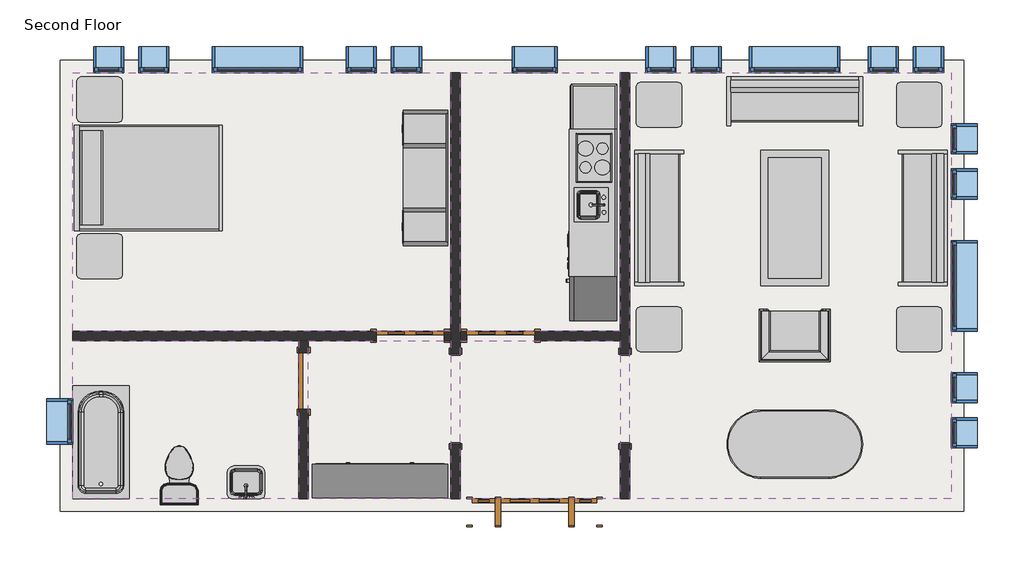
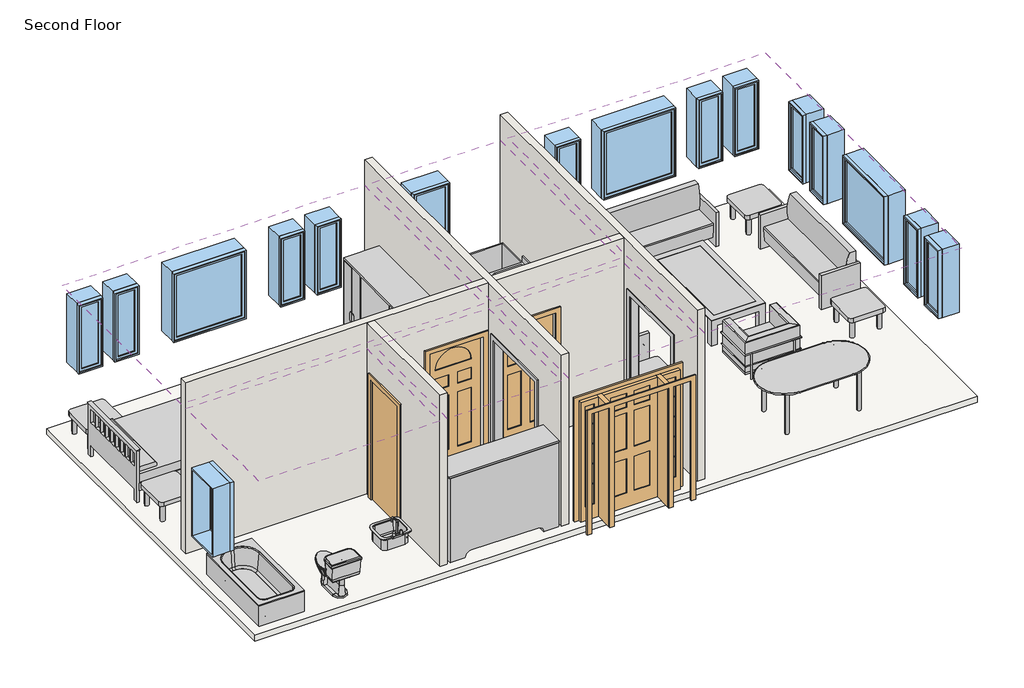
# One storey: 17 windows, 15 furniture elements, 6 coverings, 5 walls, 4 doors, 3 flow terminals, 3 proxies, 1 slab.
"""IFC4 building model written with IfcOpenShell, lengths in millimetres."""

from ifc_helpers import new_model, si_unit, frame, origin, place, context, project, spatial, polyline, outline, extrude, faceted_brep, transform, mapped, element, save
from components import proxy_64a468c4, proxy_f44482cc, door_829da954, door_2e3b4da2, door_4d6c7550, door_dba5aa2e, flow_terminal_0aeb31e3, toilet_domestic_3d_toilet_domestic_3d_f7549cf7, toilet_domestic_3d_toilet_domestic_3d_183bbd19, tub_rectangular_3d_tub_rectangular_3d_0be0b2e8, furniture_096e7f55, chair_corbu_chair_corbu_2764bdef, furniture_7c473f12, furniture_ddc78764, furniture_4ef38d96, furniture_cd93a443, furniture_8c0aa46a, furniture_3a588284, furniture_1befe2a2, window_da97879f, window_d61ef850, window_60baf983, window_6eb97611

model = new_model("IFC4")

# Units and contexts
model_context = context("Model", 3, world=origin())
ifc_project = project(units=[si_unit("LENGTHUNIT", "METRE", prefix="MILLI")], contexts=[model_context])

# Site, building, storey
site = spatial("IfcSite", under=ifc_project)
building = spatial("IfcBuilding", under=site)
storey = spatial("IfcBuildingStorey", under=building, Name="Second Floor", Elevation=3048.0)

# Proxies
placement = place(None, origin())
proxy_shape = proxy_64a468c4(model_context)
element("IfcBuildingElementProxy", 1, Name="Kitchenette - Medium : 8'6\"", ObjectType="Kitchenette - Medium : 8'6\"", at=placement, inside=storey, context=model_context, shape_type="MappedRepresentation", body=[
    mapped(proxy_shape, transform((-3887.7589563, 8837.7956433, 3048.0), x_axis=(0.0, -1.0, 0.0), y_axis=(1.0, 0.0, 0.0), z_axis=(0.0, 0.0, 1.0))),
])
proxy_2_shape = proxy_f44482cc(model_context)
element("IfcBuildingElementProxy", 2, Name="Opening-Cased : 48\" x 84\"", ObjectType="Opening-Cased : 48\" x 84\"", at=placement, inside=storey, context=model_context, shape_type="MappedRepresentation", body=[
    mapped(proxy_2_shape, transform((-3773.4589563, 5882.4203434, 3048.0), x_axis=(0.0, 1.0, 0.0), y_axis=(-1.0, 0.0, 0.0), z_axis=(0.0, 0.0, 1.0))),
])
element("IfcBuildingElementProxy", 3, Name="Opening-Cased : 48\" x 84\"", ObjectType="Opening-Cased : 48\" x 84\"", at=placement, inside=storey, context=model_context, shape_type="MappedRepresentation", body=[
    mapped(proxy_2_shape, transform((-6059.4589563, 5866.04303, 3048.0), x_axis=(0.0, -1.0, 0.0), y_axis=(1.0, 0.0, 0.0), z_axis=(0.0, 0.0, 1.0))),
])

# Coverings
element("IfcCovering", 4, ObjectType="GWB on Mtl. Stud", at=placement, inside=storey, context=model_context, shape_type="SweptSolid", body=[
    extrude(outline(polyline([(-11217.2464563, 10270.0191867), (-6122.9589563, 10270.0191867), (-6122.9589563, 6787.0441867), (-11217.2464563, 6787.0441867), (-11217.2464563, 10270.0191867)])), frame((0.0, 0.0, 5638.8), z_axis=(0.0, 0.0, 1.0), x_axis=(1.0, 0.0, 0.0)), (0.0, 0.0, 1.0), 107.95),
])
element("IfcCovering", 5, ObjectType="GWB on Mtl. Stud", at=placement, inside=storey, context=model_context, shape_type="SweptSolid", body=[
    extrude(outline(polyline([(-5995.9589563, 6787.0441867), (-5995.9589563, 10270.0191867), (-3836.9589563, 10270.0191867), (-3836.9589563, 6787.0441867), (-5995.9589563, 6787.0441867)])), frame((0.0, 0.0, 5638.8), z_axis=(0.0, 0.0, 1.0), x_axis=(1.0, 0.0, 0.0)), (0.0, 0.0, 1.0), 107.95),
])
element("IfcCovering", 6, ObjectType="GWB on Mtl. Stud", at=placement, inside=storey, context=model_context, shape_type="SweptSolid", body=[
    extrude(outline(polyline([(-3709.9589563, 4526.4441867), (-3709.9589563, 10270.0191867), (622.3285437, 10270.0191867), (622.3285437, 4526.4441867), (-3709.9589563, 4526.4441867)])), frame((0.0, 0.0, 5638.8), z_axis=(0.0, 0.0, 1.0), x_axis=(1.0, 0.0, 0.0)), (0.0, 0.0, 1.0), 107.95),
])
element("IfcCovering", 7, ObjectType="GWB on Mtl. Stud", at=placement, inside=storey, context=model_context, shape_type="SweptSolid", body=[
    extrude(outline(polyline([(-3836.9589563, 4526.4441867), (-5995.9589563, 4526.4441867), (-5995.9589563, 6660.0441867), (-3836.9589563, 6660.0441867), (-3836.9589563, 4526.4441867)])), frame((0.0, 0.0, 5638.8), z_axis=(0.0, 0.0, 1.0), x_axis=(1.0, 0.0, 0.0)), (0.0, 0.0, 1.0), 107.95),
])
element("IfcCovering", 8, ObjectType="GWB on Mtl. Stud", at=placement, inside=storey, context=model_context, shape_type="SweptSolid", body=[
    extrude(outline(polyline([(-6122.9589563, 4526.4441867), (-8042.2464563, 4526.4441867), (-8042.2464563, 6660.0441867), (-6122.9589563, 6660.0441867), (-6122.9589563, 4526.4441867)])), frame((0.0, 0.0, 5638.8), z_axis=(0.0, 0.0, 1.0), x_axis=(1.0, 0.0, 0.0)), (0.0, 0.0, 1.0), 107.95),
])
element("IfcCovering", 9, ObjectType="GWB on Mtl. Stud", at=placement, inside=storey, context=model_context, shape_type="SweptSolid", body=[
    extrude(outline(polyline([(-8169.2464563, 6660.0441867), (-8169.2464563, 4526.4441867), (-11217.2464563, 4526.4441867), (-11217.2464563, 6660.0441867), (-8169.2464563, 6660.0441867)])), frame((0.0, 0.0, 5638.8), z_axis=(0.0, 0.0, 1.0), x_axis=(1.0, 0.0, 0.0)), (0.0, 0.0, 1.0), 107.95),
])

# Doors
door_shape = door_829da954(model_context)
element("IfcDoor", 10, ObjectType="Single-Decorative 2 : 36\" x 84\"", at=placement, inside=storey, context=model_context, shape_type="MappedRepresentation", body=[
    mapped(door_shape, transform((-5449.8589563, 6723.5441867, 3048.0), x_axis=(-1.0, 0.0, 0.0), y_axis=(0.0, -1.0, 0.0), z_axis=(0.0, 0.0, 1.0))),
])
door_2_shape = door_2e3b4da2(model_context)
element("IfcDoor", 11, ObjectType="Single-Decorative 2 : 36\" x 84\"", at=placement, inside=storey, context=model_context, shape_type="MappedRepresentation", body=[
    mapped(door_2_shape, transform((-6669.0589563, 6723.5441867, 3048.0), x_axis=(1.0, 0.0, 0.0), y_axis=(0.0, 1.0, 0.0), z_axis=(0.0, 0.0, 1.0))),
])
door_3_shape = door_4d6c7550(model_context)
element("IfcDoor", 12, ObjectType="Single-Flush : 30\" x 84\"", at=placement, inside=storey, context=model_context, shape_type="MappedRepresentation", body=[
    mapped(door_3_shape, transform((-8105.7464563, 6113.9441867, 3048.0), x_axis=(0.0, 1.0, 0.0), y_axis=(-1.0, 0.0, 0.0), z_axis=(0.0, 0.0, 1.0))),
])
door_4_shape = door_dba5aa2e(model_context)
element("IfcDoor", 13, ObjectType="Single-Raised Panel with Sidelights : 36\" x 84\"", at=placement, inside=storey, context=model_context, shape_type="MappedRepresentation", body=[
    mapped(door_4_shape, transform((-4992.6589563, 4350.2316867, 3048.0), x_axis=(-1.0, 0.0, 0.0), y_axis=(0.0, -1.0, 0.0), z_axis=(0.0, 0.0, 1.0))),
])

# Flow terminals
flow_terminal_shape = flow_terminal_0aeb31e3(model_context)
element("IfcFlowTerminal", 14, ObjectType="Sink Vanity-Square : 24\" x 19\"", at=placement, inside=storey, context=model_context, shape_type="MappedRepresentation", body=[
    mapped(flow_terminal_shape, transform((-8864.7572157, 4706.5895878, 3048.0), x_axis=(-1.0, 0.0, 0.0), y_axis=(0.0, -1.0, 0.0), z_axis=(0.0, 0.0, 1.0))),
])
toilet_domestic_3d_toilet_domestic_3d_shape = toilet_domestic_3d_toilet_domestic_3d_f7549cf7(model_context)
toilet_domestic_3d_toilet_domestic_3d_2_shape = toilet_domestic_3d_toilet_domestic_3d_183bbd19(model_context)
element("IfcFlowTerminal", 15, ObjectType="Toilet-Domestic-3D : Toilet-Domestic-3D", at=placement, inside=storey, context=model_context, shape_type="MappedRepresentation", body=[
    mapped(toilet_domestic_3d_toilet_domestic_3d_shape, transform((-9782.1466587, 4940.866411, 3048.0), x_axis=(-1.0000000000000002, 0.0, 0.0), y_axis=(0.0, -1.0000000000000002, 0.0), z_axis=(0.0, 0.0, 1.0))),
    mapped(toilet_domestic_3d_toilet_domestic_3d_2_shape, transform((-9782.1466587, 4940.866411, 3048.0), x_axis=(-1.0000000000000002, 0.0, 0.0), y_axis=(0.0, -1.0000000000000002, 0.0), z_axis=(0.0, 0.0, 1.0))),
])
tub_rectangular_3d_tub_rectangular_3d_shape = tub_rectangular_3d_tub_rectangular_3d_0be0b2e8(model_context)
element("IfcFlowTerminal", 16, ObjectType="Tub-Rectangular-3D : Tub-Rectangular-3D", at=placement, inside=storey, context=model_context, shape_type="MappedRepresentation", body=[
    mapped(tub_rectangular_3d_tub_rectangular_3d_shape, transform((-11393.4589563, 5637.0471554, 3048.0), x_axis=(0.0, 1.0, 0.0), y_axis=(-1.0, 0.0, 0.0), z_axis=(0.0, 0.0, 1.0))),
])

# Furniture
furniture_shape = furniture_096e7f55(model_context)
element("IfcFurniture", 17, ObjectType="Bed-Shaker : Double 56\" x 78\"", at=placement, inside=storey, context=model_context, shape_type="MappedRepresentation", body=[
    mapped(furniture_shape, transform((-11183.1982802, 8871.8755561, 3048.0), x_axis=(0.0, 1.0, 0.0), y_axis=(-1.0, 0.0, 0.0), z_axis=(0.0, 0.0, 1.0))),
])
chair_corbu_chair_corbu_shape = chair_corbu_chair_corbu_2764bdef(model_context)
element("IfcFurniture", 18, ObjectType="Chair-Corbu : Chair-Corbu", at=placement, inside=storey, context=model_context, shape_type="MappedRepresentation", body=[
    mapped(chair_corbu_chair_corbu_shape, transform((-914.0851858, 7193.4962359, 3048.0), x_axis=(-1.0, 0.0, 0.0), y_axis=(0.0, -1.0, 0.0), z_axis=(0.0, 0.0, 1.0))),
])
furniture_2_shape = furniture_7c473f12(model_context)
element("IfcFurniture", 19, ObjectType="Dresser : 72\" x 60\" x 18\"", at=placement, inside=storey, context=model_context, shape_type="MappedRepresentation", body=[
    mapped(furniture_2_shape, transform((-7344.6522161, 4404.5812326, 3048.0), x_axis=(-1.0, 0.0, 0.0), y_axis=(0.0, -1.0, 0.0), z_axis=(0.0, 0.0, 1.0))),
])
furniture_3_shape = furniture_ddc78764(model_context)
element("IfcFurniture", 20, ObjectType="Entertainment Center : 72\" x 72\" x 24\"", at=placement, inside=storey, context=model_context, shape_type="MappedRepresentation", body=[
    mapped(furniture_3_shape, transform((-6059.4589563, 8852.8255561, 3048.0), x_axis=(0.0, -1.0, 0.0), y_axis=(1.0, 0.0, 0.0), z_axis=(0.0, 0.0, 1.0))),
])
furniture_4_shape = furniture_4ef38d96(model_context)
element("IfcFurniture", 21, ObjectType="Sofa : 72\"", at=placement, inside=storey, context=model_context, shape_type="MappedRepresentation", body=[
    mapped(furniture_4_shape, transform((-1557.8294481, 9741.2775883, 3048.0), x_axis=(1.0, 0.0, 0.0), y_axis=(0.0, 1.0, 0.0), z_axis=(0.0, 0.0, 1.0))),
])
element("IfcFurniture", 22, ObjectType="Sofa : 72\"", at=placement, inside=storey, context=model_context, shape_type="MappedRepresentation", body=[
    mapped(furniture_4_shape, transform((93.5869453, 8383.0021785, 3048.0), x_axis=(0.0, -1.0, 0.0), y_axis=(1.0, 0.0, 0.0), z_axis=(0.0, 0.0, 1.0))),
])
element("IfcFurniture", 23, ObjectType="Sofa : 72\"", at=placement, inside=storey, context=model_context, shape_type="MappedRepresentation", body=[
    mapped(furniture_4_shape, transform((-3170.104858, 8242.2611949, 3048.0), x_axis=(0.0, 1.0, 0.0), y_axis=(-1.0, 0.0, 0.0), z_axis=(0.0, 0.0, 1.0))),
])
furniture_5_shape = furniture_cd93a443(model_context)
element("IfcFurniture", 24, ObjectType="Table-Coffee : 36\" x 72\" x 18\"", at=placement, inside=storey, context=model_context, shape_type="MappedRepresentation", body=[
    mapped(furniture_5_shape, transform((-1582.6700341, 8330.8974534, 3048.0), x_axis=(0.0, -1.0, 0.0), y_axis=(1.0, 0.0, 0.0), z_axis=(0.0, 0.0, 1.0))),
])
furniture_6_shape = furniture_8c0aa46a(model_context)
element("IfcFurniture", 25, ObjectType="Table-Dining Oval : 36\" x 72\"", at=placement, inside=storey, context=model_context, shape_type="MappedRepresentation", body=[
    mapped(furniture_6_shape, transform((-1085.6392842, 5622.7300473, 3048.0), x_axis=(1.0, 0.0, 0.0), y_axis=(0.0, 1.0, 0.0), z_axis=(0.0, 0.0, 1.0))),
])
furniture_7_shape = furniture_3a588284(model_context)
element("IfcFurniture", 26, ObjectType="Table-End : 24\" x 24\"", at=placement, inside=storey, context=model_context, shape_type="MappedRepresentation", body=[
    mapped(furniture_7_shape, transform((-119.5925866, 9684.2316867, 3048.0), x_axis=(1.0, 0.0, 0.0), y_axis=(0.0, 1.0, 0.0), z_axis=(0.0, 0.0, 1.0))),
])
element("IfcFurniture", 27, ObjectType="Table-End : 24\" x 24\"", at=placement, inside=storey, context=model_context, shape_type="MappedRepresentation", body=[
    mapped(furniture_7_shape, transform((-3624.7925866, 9684.2316867, 3048.0), x_axis=(1.0, 0.0, 0.0), y_axis=(0.0, 1.0, 0.0), z_axis=(0.0, 0.0, 1.0))),
])
element("IfcFurniture", 28, ObjectType="Table-End : 24\" x 24\"", at=placement, inside=storey, context=model_context, shape_type="MappedRepresentation", body=[
    mapped(furniture_7_shape, transform((-3624.7925866, 6660.0441867, 3048.0), x_axis=(1.0, 0.0, 0.0), y_axis=(0.0, 1.0, 0.0), z_axis=(0.0, 0.0, 1.0))),
])
element("IfcFurniture", 29, ObjectType="Table-End : 24\" x 24\"", at=placement, inside=storey, context=model_context, shape_type="MappedRepresentation", body=[
    mapped(furniture_7_shape, transform((-119.5925866, 6660.0441867, 3048.0), x_axis=(1.0, 0.0, 0.0), y_axis=(0.0, 1.0, 0.0), z_axis=(0.0, 0.0, 1.0))),
])
element("IfcFurniture", 30, ObjectType="Table-End : 24\" x 24\"", at=placement, inside=storey, context=model_context, shape_type="MappedRepresentation", body=[
    mapped(furniture_7_shape, transform((-11164.2346356, 9756.0737357, 3048.0), x_axis=(1.0, 0.0, 0.0), y_axis=(0.0, 1.0, 0.0), z_axis=(0.0, 0.0, 1.0))),
])
furniture_8_shape = furniture_1befe2a2(model_context)
element("IfcFurniture", 31, ObjectType="Table-End : 24\" x 24\"", at=placement, inside=storey, context=model_context, shape_type="MappedRepresentation", body=[
    mapped(furniture_8_shape, transform((-11164.2346356, 7949.5773764, 3048.0), x_axis=(1.0, 0.0, 0.0), y_axis=(0.0, 1.0, 0.0), z_axis=(0.0, 0.0, 1.0))),
])

# Slab
element("IfcSlab", 32, ObjectType="LW Concrete on Metal Deck", at=placement, inside=storey, context=model_context, shape_type="SweptSolid", body=[
    extrude(outline(polyline([(787.4285437, 10435.1191867), (787.4285437, 4361.3441867), (-11382.3464563, 4361.3441867), (-11382.3464563, 10435.1191867), (787.4285437, 10435.1191867)])), frame((0.0, 0.0, 2943.225), z_axis=(0.0, 0.0, 1.0), x_axis=(1.0, 0.0, 0.0)), (0.0, 0.0, 1.0), 104.775),
])

# Walls
element("IfcWall", 33, ObjectType="Interior - 5\" Partition (2-hr)", at=placement, inside=storey, context=model_context, shape_type="Brep", body=[
    faceted_brep([(-3836.9589563, 10270.0191867, 3048.0), (-3836.9589563, 6787.0441867, 3048.0), (-3836.9589563, 6660.0441867, 3048.0), (-3836.9589563, 6483.8316867, 3048.0), (-3836.9589563, 6483.8316867, 5181.6), (-3836.9589563, 5264.6316867, 5181.6), (-3836.9589563, 5264.6316867, 3048.0), (-3836.9589563, 4526.4441867, 3048.0), (-3836.9589563, 4526.4441867, 6096.0), (-3836.9589563, 6660.0441867, 6096.0), (-3836.9589563, 6787.0441867, 6096.0), (-3836.9589563, 10270.0191867, 6096.0), (-3709.9589563, 6483.8316867, 5181.6), (-3709.9589563, 6483.8316867, 3048.0), (-3709.9589563, 10270.0191867, 3048.0), (-3709.9589563, 10270.0191867, 6096.0), (-3709.9589563, 4526.4441867, 6096.0), (-3709.9589563, 4526.4441867, 3048.0), (-3709.9589563, 5264.6316867, 3048.0), (-3709.9589563, 5264.6316867, 5181.6)], [[[0, 1, 2, 3, 4, 5, 6, 7, 8, 9, 10, 11]], [[12, 13, 14, 15, 16, 17, 18, 19]], [[14, 13, 3, 2, 1, 0]], [[18, 17, 7, 6]], [[11, 10, 9, 8, 16, 15]], [[0, 11, 15, 14]], [[8, 7, 17, 16]], [[6, 5, 19, 18]], [[4, 3, 13, 12]], [[5, 4, 12, 19]]]),
])
element("IfcWall", 34, ObjectType="Interior - 5\" Partition (2-hr)", at=placement, inside=storey, context=model_context, shape_type="Brep", body=[
    faceted_brep([(-6122.9589563, 5264.6316867, 5181.6), (-6122.9589563, 5264.6316867, 3048.0), (-6122.9589563, 4526.4441867, 3048.0), (-6122.9589563, 4526.4441867, 6096.0), (-6122.9589563, 6660.0441867, 6096.0), (-6122.9589563, 6787.0441867, 6096.0), (-6122.9589563, 10270.0191867, 6096.0), (-6122.9589563, 10270.0191867, 3048.0), (-6122.9589563, 6787.0441867, 3048.0), (-6122.9589563, 6660.0441867, 3048.0), (-6122.9589563, 6483.8316867, 3048.0), (-6122.9589563, 6483.8316867, 5181.6), (-5995.9589563, 4526.4441867, 3048.0), (-5995.9589563, 5264.6316867, 3048.0), (-5995.9589563, 5264.6316867, 5181.6), (-5995.9589563, 6483.8316867, 5181.6), (-5995.9589563, 6483.8316867, 3048.0), (-5995.9589563, 6660.0441867, 3048.0), (-5995.9589563, 6787.0441867, 3048.0), (-5995.9589563, 10270.0191867, 3048.0), (-5995.9589563, 10270.0191867, 6096.0), (-5995.9589563, 6787.0441867, 6096.0), (-5995.9589563, 6660.0441867, 6096.0), (-5995.9589563, 4526.4441867, 6096.0)], [[[0, 1, 2, 3, 4, 5, 6, 7, 8, 9, 10, 11]], [[12, 13, 14, 15, 16, 17, 18, 19, 20, 21, 22, 23]], [[2, 1, 13, 12]], [[10, 9, 8, 7, 19, 18, 17, 16]], [[6, 5, 4, 3, 23, 22, 21, 20]], [[7, 6, 20, 19]], [[3, 2, 12, 23]], [[16, 15, 11, 10]], [[14, 13, 1, 0]], [[15, 14, 0, 11]]]),
])
element("IfcWall", 35, ObjectType="Interior - 5\" Partition (2-hr)", at=placement, inside=storey, context=model_context, shape_type="Brep", body=[
    faceted_brep([(-6211.8589563, 6660.0441867, 5181.6), (-6211.8589563, 6660.0441867, 3048.0), (-6122.9589563, 6660.0441867, 3048.0), (-6122.9589563, 6660.0441867, 6096.0), (-8042.2464563, 6660.0441867, 6096.0), (-8169.2464563, 6660.0441867, 6096.0), (-11217.2464563, 6660.0441867, 6096.0), (-11217.2464563, 6660.0441867, 3048.0), (-8169.2464563, 6660.0441867, 3048.0), (-8042.2464563, 6660.0441867, 3048.0), (-7126.2589563, 6660.0441867, 3048.0), (-7126.2589563, 6660.0441867, 5181.6), (-6122.9589563, 6787.0441867, 3048.0), (-6211.8589563, 6787.0441867, 3048.0), (-6211.8589563, 6787.0441867, 5181.6), (-7126.2589563, 6787.0441867, 5181.6), (-7126.2589563, 6787.0441867, 3048.0), (-11217.2464563, 6787.0441867, 3048.0), (-11217.2464563, 6787.0441867, 6096.0), (-6122.9589563, 6787.0441867, 6096.0)], [[[0, 1, 2, 3, 4, 5, 6, 7, 8, 9, 10, 11]], [[12, 13, 14, 15, 16, 17, 18, 19]], [[2, 1, 13, 12]], [[10, 9, 8, 7, 17, 16]], [[6, 5, 4, 3, 19, 18]], [[3, 2, 12, 19]], [[7, 6, 18, 17]], [[14, 13, 1, 0]], [[15, 14, 0, 11]], [[16, 15, 11, 10]]]),
])
element("IfcWall", 36, ObjectType="Interior - 5\" Partition (2-hr)", at=placement, inside=storey, context=model_context, shape_type="SweptSolid", body=[
    extrude(outline(polyline([(6660.0441867, 3048.0), (6494.9441867, 3048.0), (6494.9441867, 5181.6), (5732.9441867, 5181.6), (5732.9441867, 3048.0), (4526.4441867, 3048.0), (4526.4441867, 6096.0), (6660.0441867, 6096.0), (6660.0441867, 3048.0)])), frame((-8169.2464563, 0.0, 0.0), z_axis=(1.0, 0.0, 0.0), x_axis=(0.0, 1.0, 0.0)), (0.0, 0.0, 1.0), 127.0),
])
element("IfcWall", 37, ObjectType="Interior - 5\" Partition (2-hr)", at=placement, inside=storey, context=model_context, shape_type="SweptSolid", body=[
    extrude(outline(polyline([(3048.0, -5995.9589563), (3048.0, -5907.0589563), (5181.6, -5907.0589563), (5181.6, -4992.6589563), (3048.0, -4992.6589563), (3048.0, -3836.9589563), (6096.0, -3836.9589563), (6096.0, -5995.9589563), (3048.0, -5995.9589563)])), frame((0.0, 6660.0441867, 0.0), z_axis=(0.0, 1.0, 0.0), x_axis=(0.0, 0.0, 1.0)), (0.0, 0.0, 1.0), 127.0),
])

# Windows
window_shape = window_da97879f(model_context)
element("IfcWindow", 38, ObjectType="Fixed : 16\" x 48\"", at=placement, inside=storey, context=model_context, shape_type="MappedRepresentation", body=[
    mapped(window_shape, transform((-10771.1589563, 10446.2316867, 3048.0), x_axis=(-1.0, 0.0, 0.0), y_axis=(0.0, -1.0, 0.0), z_axis=(0.0, 0.0, 1.0))),
])
element("IfcWindow", 39, ObjectType="Fixed : 16\" x 48\"", at=placement, inside=storey, context=model_context, shape_type="MappedRepresentation", body=[
    mapped(window_shape, transform((-10161.5589563, 10446.2316867, 3048.0), x_axis=(-1.0, 0.0, 0.0), y_axis=(0.0, -1.0, 0.0), z_axis=(0.0, 0.0, 1.0))),
])
element("IfcWindow", 40, ObjectType="Fixed : 16\" x 48\"", at=placement, inside=storey, context=model_context, shape_type="MappedRepresentation", body=[
    mapped(window_shape, transform((-3328.9589563, 10446.2316867, 3048.0), x_axis=(-1.0, 0.0, 0.0), y_axis=(0.0, -1.0, 0.0), z_axis=(0.0, 0.0, 1.0))),
])
element("IfcWindow", 41, ObjectType="Fixed : 16\" x 48\"", at=placement, inside=storey, context=model_context, shape_type="MappedRepresentation", body=[
    mapped(window_shape, transform((-2719.3589563, 10446.2316867, 3048.0), x_axis=(-1.0, 0.0, 0.0), y_axis=(0.0, -1.0, 0.0), z_axis=(0.0, 0.0, 1.0))),
])
element("IfcWindow", 42, ObjectType="Fixed : 16\" x 48\"", at=placement, inside=storey, context=model_context, shape_type="MappedRepresentation", body=[
    mapped(window_shape, transform((798.5410437, 9417.5316867, 3048.0), x_axis=(0.0, 1.0, 0.0), y_axis=(-1.0, 0.0, 0.0), z_axis=(0.0, 0.0, 1.0))),
])
element("IfcWindow", 43, ObjectType="Fixed : 16\" x 48\"", at=placement, inside=storey, context=model_context, shape_type="MappedRepresentation", body=[
    mapped(window_shape, transform((798.5410437, 8807.9316867, 3048.0), x_axis=(0.0, 1.0, 0.0), y_axis=(-1.0, 0.0, 0.0), z_axis=(0.0, 0.0, 1.0))),
])
window_2_shape = window_d61ef850(model_context)
element("IfcWindow", 44, ObjectType="Fixed : 16\" x 48\"", at=placement, inside=storey, context=model_context, shape_type="MappedRepresentation", body=[
    mapped(window_2_shape, transform((-6681.7589563, 10446.2316867, 3048.0), x_axis=(1.0, 0.0, 0.0), y_axis=(0.0, 1.0, 0.0), z_axis=(0.0, 0.0, 1.0))),
])
element("IfcWindow", 45, ObjectType="Fixed : 16\" x 48\"", at=placement, inside=storey, context=model_context, shape_type="MappedRepresentation", body=[
    mapped(window_2_shape, transform((-7291.3589563, 10446.2316867, 3048.0), x_axis=(1.0, 0.0, 0.0), y_axis=(0.0, 1.0, 0.0), z_axis=(0.0, 0.0, 1.0))),
])
element("IfcWindow", 46, ObjectType="Fixed : 16\" x 48\"", at=placement, inside=storey, context=model_context, shape_type="MappedRepresentation", body=[
    mapped(window_2_shape, transform((354.0410437, 10446.2316867, 3048.0), x_axis=(1.0, 0.0, 0.0), y_axis=(0.0, 1.0, 0.0), z_axis=(0.0, 0.0, 1.0))),
])
element("IfcWindow", 47, ObjectType="Fixed : 16\" x 48\"", at=placement, inside=storey, context=model_context, shape_type="MappedRepresentation", body=[
    mapped(window_2_shape, transform((-255.5589563, 10446.2316867, 3048.0), x_axis=(1.0, 0.0, 0.0), y_axis=(0.0, 1.0, 0.0), z_axis=(0.0, 0.0, 1.0))),
])
element("IfcWindow", 48, ObjectType="Fixed : 16\" x 48\"", at=placement, inside=storey, context=model_context, shape_type="MappedRepresentation", body=[
    mapped(window_2_shape, transform((798.5410437, 5378.9316867, 3048.0), x_axis=(0.0, -1.0, 0.0), y_axis=(1.0, 0.0, 0.0), z_axis=(0.0, 0.0, 1.0))),
])
element("IfcWindow", 49, ObjectType="Fixed : 16\" x 48\"", at=placement, inside=storey, context=model_context, shape_type="MappedRepresentation", body=[
    mapped(window_2_shape, transform((798.5410437, 5988.5316867, 3048.0), x_axis=(0.0, -1.0, 0.0), y_axis=(1.0, 0.0, 0.0), z_axis=(0.0, 0.0, 1.0))),
])
window_3_shape = window_60baf983(model_context)
element("IfcWindow", 50, ObjectType="Fixed : 24\" x 48\"", at=placement, inside=storey, context=model_context, shape_type="MappedRepresentation", body=[
    mapped(window_3_shape, transform((-5030.7589563, 10446.2316867, 3048.0), x_axis=(-1.0, 0.0, 0.0), y_axis=(0.0, -1.0, 0.0), z_axis=(0.0, 0.0, 1.0))),
])
element("IfcWindow", 51, ObjectType="Fixed : 24\" x 48\"", at=placement, inside=storey, context=model_context, shape_type="MappedRepresentation", body=[
    mapped(window_3_shape, transform((-11393.4589563, 5531.3316867, 3048.0), x_axis=(0.0, -1.0, 0.0), y_axis=(1.0, 0.0, 0.0), z_axis=(0.0, 0.0, 1.0))),
])
window_4_shape = window_6eb97611(model_context)
element("IfcWindow", 52, ObjectType="Fixed : 48\" x 48\"", at=placement, inside=storey, context=model_context, shape_type="MappedRepresentation", body=[
    mapped(window_4_shape, transform((-8764.5589563, 10446.2316867, 3048.0), x_axis=(-1.0, 0.0, 0.0), y_axis=(0.0, -1.0, 0.0), z_axis=(0.0, 0.0, 1.0))),
])
element("IfcWindow", 53, ObjectType="Fixed : 48\" x 48\"", at=placement, inside=storey, context=model_context, shape_type="MappedRepresentation", body=[
    mapped(window_4_shape, transform((-1525.5589563, 10446.2316867, 3048.0), x_axis=(-1.0, 0.0, 0.0), y_axis=(0.0, -1.0, 0.0), z_axis=(0.0, 0.0, 1.0))),
])
element("IfcWindow", 54, ObjectType="Fixed : 48\" x 48\"", at=placement, inside=storey, context=model_context, shape_type="MappedRepresentation", body=[
    mapped(window_4_shape, transform((798.5410437, 7436.3316867, 3048.0), x_axis=(0.0, 1.0, 0.0), y_axis=(-1.0, 0.0, 0.0), z_axis=(0.0, 0.0, 1.0))),
])

save(model, "model.ifc")
